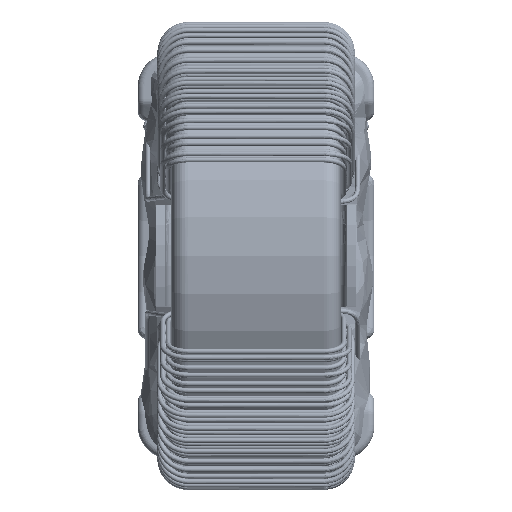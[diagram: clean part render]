
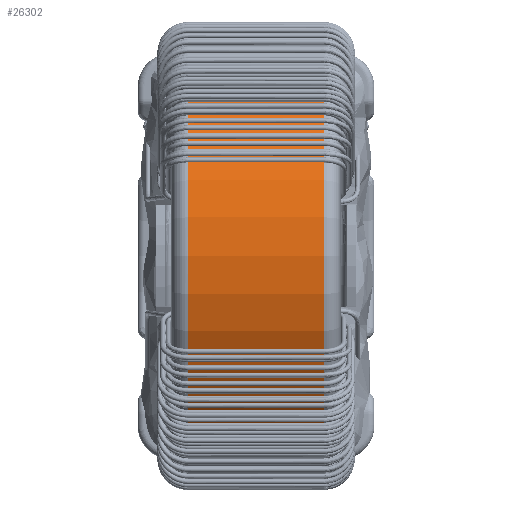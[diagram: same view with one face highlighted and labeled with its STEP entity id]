
A CAD part, top view. The second image highlights one B-rep face of the part: STEP entity #26302.
In plain terms, the highlighted cylindrical face has radius 6.5 mm (diameter 13 mm), a full revolution.
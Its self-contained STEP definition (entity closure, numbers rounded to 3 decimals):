
#3104=CYLINDRICAL_SURFACE('',#42177,6.5);
#6032=ORIENTED_EDGE('',*,*,#11200,.T.);
#6033=ORIENTED_EDGE('',*,*,#11199,.F.);
#11199=EDGE_CURVE('',#13985,#13985,#16215,.T.);
#11200=EDGE_CURVE('',#13986,#13986,#16216,.T.);
#13985=VERTEX_POINT('',#62402);
#13986=VERTEX_POINT('',#62405);
#16215=CIRCLE('',#42165,6.5);
#16216=CIRCLE('',#42167,6.5);
#18162=EDGE_LOOP('',(#6032));
#18163=EDGE_LOOP('',(#6033));
#22286=FACE_BOUND('',#18162,.T.);
#22287=FACE_BOUND('',#18163,.T.);
#26302=ADVANCED_FACE('',(#22286,#22287),#3104,.T.);
#42165=AXIS2_PLACEMENT_3D('',#62401,#46480,#46481);
#42167=AXIS2_PLACEMENT_3D('',#62404,#46484,#46485);
#42177=AXIS2_PLACEMENT_3D('',#62420,#46504,#46505);
#46480=DIRECTION('',(0.,1.,0.));
#46481=DIRECTION('',(0.,0.,1.));
#46484=DIRECTION('',(0.,1.,0.));
#46485=DIRECTION('',(0.,0.,1.));
#46504=DIRECTION('',(0.,1.,0.));
#46505=DIRECTION('',(0.,0.,1.));
#62401=CARTESIAN_POINT('',(0.,2.,9.52));
#62402=CARTESIAN_POINT('',(0.,2.,16.02));
#62404=CARTESIAN_POINT('',(0.,-2.,9.52));
#62405=CARTESIAN_POINT('',(0.,-2.,16.02));
#62420=CARTESIAN_POINT('',(0.,-2.5,9.52));
